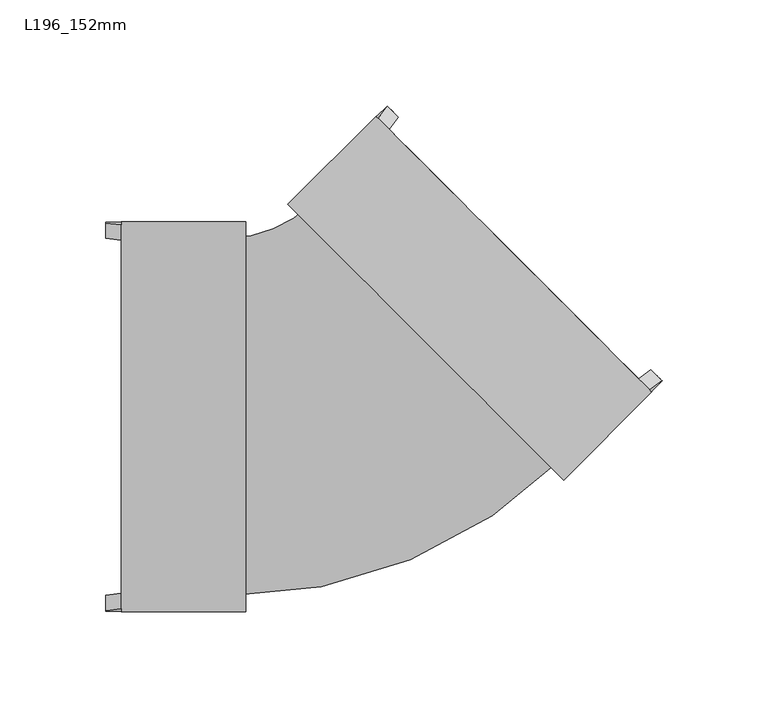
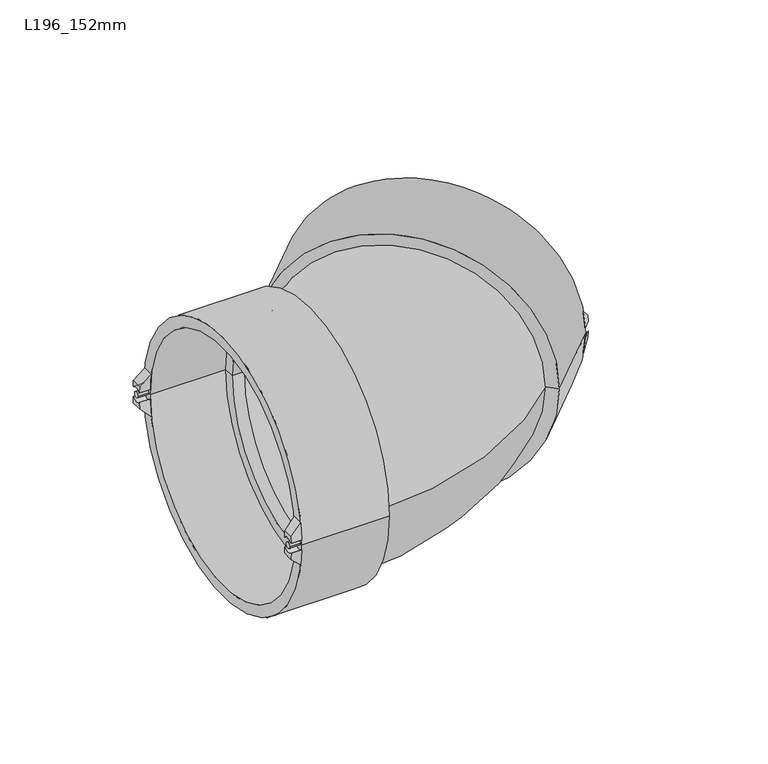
"""IFC4 building model written with IfcOpenShell, lengths in millimetres: pipe fitting geometry, Durapipe_PipeFitting_VulcatheneEnfusion_DoubleSocketSlowBend_L19 : L196_152mm."""

from ifc_helpers import new_model, si_unit, point, frame, frame_2d, origin, place, context, project, spatial, polyline, circle_curve, ellipse_curve, trimmed, segment, composite_curve, outline, extrude, source, transform, mapped, element, save
from ifc_brep_helpers import plane_surface, cylinder_surface, revolved_surface, advanced_brep


def l196_152mm_a0f9f9bf(model_context):
    return source(origin(), model_context, "Body", "SolidModel", [
        advanced_brep(
        [(22.0271158, 141.5730575, 3.3976334), (16.935947, 146.6642263, 3.5393177), (17.1309425, 146.4692308, 7.94), (22.2429024, 141.3572709, 7.94), (12.739641, 140.819616, 15.0), (11.9154888, 141.6437682, 3.5393177), (17.0066577, 136.5525994, 3.3976334), (17.906205, 135.6530521, 15.0)],
        [
            (0, 1, circle_curve(frame((19.4332686, 144.1669048, 0.0), z_axis=(-0.7071067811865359, -0.7071067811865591, 0.0), x_axis=(0.7071067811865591, -0.7071067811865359, 0.0)), 5.0)),
            (1, 2, circle_curve(frame((81.8000867, 81.8000867, 0.0), z_axis=(0.7071067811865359, 0.7071067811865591, 0.0), x_axis=(0.7071067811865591, -0.7071067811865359, 0.0)), 91.8)),
            (2, 3),
            (3, 0, circle_curve(frame((81.8000867, 81.8000867, 0.0), z_axis=(-0.7071067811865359, -0.7071067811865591, 0.0), x_axis=(0.7071067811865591, -0.7071067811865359, 0.0)), 84.6)),
            (4, 5, circle_curve(frame((76.7796285, 76.7796285, 0.0), z_axis=(-0.7071067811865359, -0.7071067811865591, 0.0), x_axis=(0.7071067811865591, -0.7071067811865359, 0.0)), 91.8)),
            (5, 6, circle_curve(frame((14.4128104, 139.1464466, 0.0), z_axis=(0.7071067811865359, 0.7071067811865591, 0.0), x_axis=(0.7071067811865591, -0.7071067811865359, 0.0)), 5.0)),
            (6, 7, circle_curve(frame((76.7796285, 76.7796285, 0.0), z_axis=(0.7071067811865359, 0.7071067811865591, 0.0), x_axis=(0.7071067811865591, -0.7071067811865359, 0.0)), 84.6)),
            (7, 4),
            (6, 0),
            (3, 7, ellipse_curve(frame((87.4463243, 87.4463243, 0.0), z_axis=(0.49858558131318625, 0.49858558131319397, 0.7091014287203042), x_axis=(-0.5014104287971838, -0.5014104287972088, 0.705106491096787)), 119.9818766, 84.6)),
            (4, 2, ellipse_curve(frame((87.4463243, 87.4463243, 0.0), z_axis=(-0.49858558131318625, -0.49858558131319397, -0.7091014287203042), x_axis=(0.5014104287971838, 0.5014104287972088, -0.705106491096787)), 130.1931001, 91.8)),
            (1, 5),
        ],
        [
            plane_surface(frame((17.7600991, 145.8400742, 15.0), z_axis=(0.7071067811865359, 0.7071067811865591, 0.0), x_axis=(0.7071067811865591, -0.7071067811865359, 0.0))),
            plane_surface(frame((12.739641, 140.819616, 15.0), z_axis=(-0.7071067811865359, -0.7071067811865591, 0.0), x_axis=(-0.7071067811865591, 0.7071067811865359, 0.0))),
            revolved_surface(polyline([(87.10739379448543, -32.53507358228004, 0.0), (207.42772218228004, 87.78525480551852, 0.0)]), (76.7796285, 76.7796285, 0.0), (-0.7071067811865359, -0.7071067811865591, 0.0)),
            cylinder_surface(frame((76.7796285, 76.7796285, 0.0), z_axis=(0.7071067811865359, 0.7071067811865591, 0.0), x_axis=(0.7071067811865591, -0.7071067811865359, 0.0)), 91.8),
            revolved_surface(polyline([(22.968802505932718, 140.6313708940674, 0.0), (17.948344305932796, 135.6109126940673, 0.0)]), (14.4128104, 139.1464466, 0.0), (0.7071067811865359, 0.7071067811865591, 0.0)),
            plane_surface(frame((141.692031, 11.867226, 15.0), z_axis=(0.49858558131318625, 0.49858558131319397, 0.7091014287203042), x_axis=(-0.7071067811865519, 0.7071067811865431, 0.0))),
        ],
        [
            (0, [[1, 2, 3, 4]]),
            (1, [[5, 6, 7, 8]]),
            (2, [[-7, 9, -4, 10]]),
            (3, [[-5, 11, -2, 12]]),
            (4, [[-1, -9, -6, -12]]),
            (5, [[-3, -11, -8, -10]]),
        ],
    ),
        advanced_brep(
        [(16.935947, 146.6642263, -3.5393177), (22.0271158, 141.5730575, -3.3976334), (22.2429024, 141.3572709, -7.94), (17.1309425, 146.4692308, -7.94), (11.9154888, 141.6437682, -3.5393177), (12.739641, 140.819616, -15.0), (17.906205, 135.6530521, -15.0), (17.0066577, 136.5525994, -3.3976334)],
        [
            (0, 1, circle_curve(frame((19.4332686, 144.1669048, 0.0), z_axis=(-0.7071067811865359, -0.7071067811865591, 0.0), x_axis=(0.7071067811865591, -0.7071067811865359, 0.0)), 5.0)),
            (1, 2, circle_curve(frame((81.8000867, 81.8000867, 0.0), z_axis=(-0.7071067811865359, -0.7071067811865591, 0.0), x_axis=(0.7071067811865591, -0.7071067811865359, 0.0)), 84.6)),
            (2, 3),
            (3, 0, circle_curve(frame((81.8000867, 81.8000867, 0.0), z_axis=(0.7071067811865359, 0.7071067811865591, 0.0), x_axis=(0.7071067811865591, -0.7071067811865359, 0.0)), 91.8)),
            (4, 5, circle_curve(frame((76.7796285, 76.7796285, 0.0), z_axis=(-0.7071067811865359, -0.7071067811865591, 0.0), x_axis=(0.7071067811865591, -0.7071067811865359, 0.0)), 91.8)),
            (5, 6),
            (6, 7, circle_curve(frame((76.7796285, 76.7796285, 0.0), z_axis=(0.7071067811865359, 0.7071067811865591, 0.0), x_axis=(0.7071067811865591, -0.7071067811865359, 0.0)), 84.6)),
            (7, 4, circle_curve(frame((14.4128104, 139.1464466, 0.0), z_axis=(0.7071067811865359, 0.7071067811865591, 0.0), x_axis=(0.7071067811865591, -0.7071067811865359, 0.0)), 5.0)),
            (6, 2, ellipse_curve(frame((87.4463243, 87.4463243, 0.0), z_axis=(0.49858558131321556, 0.4985855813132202, -0.7091014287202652), x_axis=(-0.5014104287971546, -0.5014104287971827, -0.7051064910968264)), 119.9818766, 84.6)),
            (1, 7),
            (4, 0),
            (3, 5, ellipse_curve(frame((87.4463243, 87.4463243, 0.0), z_axis=(-0.49858558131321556, -0.4985855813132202, 0.7091014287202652), x_axis=(0.5014104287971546, 0.5014104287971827, 0.7051064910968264)), 130.1931001, 91.8)),
        ],
        [
            plane_surface(frame((17.7600991, 145.8400742, 15.0), z_axis=(0.7071067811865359, 0.7071067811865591, 0.0), x_axis=(0.7071067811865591, -0.7071067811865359, 0.0))),
            plane_surface(frame((12.739641, 140.819616, 15.0), z_axis=(-0.7071067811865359, -0.7071067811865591, 0.0), x_axis=(-0.7071067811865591, 0.7071067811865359, 0.0))),
            revolved_surface(polyline([(87.10739379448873, -32.53507358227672, 0.0), (207.42772218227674, 87.78525480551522, 0.0)]), (76.7796285, 76.7796285, 0.0), (-0.7071067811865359, -0.7071067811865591, 0.0)),
            cylinder_surface(frame((76.7796285, 76.7796285, 0.0), z_axis=(0.7071067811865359, 0.7071067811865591, 0.0), x_axis=(0.7071067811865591, -0.7071067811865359, 0.0)), 91.8),
            revolved_surface(polyline([(22.968802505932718, 140.6313708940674, 0.0), (17.948344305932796, 135.6109126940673, 0.0)]), (14.4128104, 139.1464466, 0.0), (0.7071067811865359, 0.7071067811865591, 0.0)),
            plane_surface(frame((146.7124892, 16.8876841, -7.94), z_axis=(0.49858558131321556, 0.4985855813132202, -0.7091014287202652), x_axis=(-0.7071067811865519, 0.7071067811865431, 0.0))),
        ],
        [
            (0, [[1, 2, 3, 4]]),
            (1, [[5, 6, 7, 8]]),
            (2, [[-7, 9, -2, 10]]),
            (3, [[-5, 11, -4, 12]]),
            (4, [[-1, -11, -8, -10]]),
            (5, [[-3, -9, -6, -12]]),
        ],
    ),
        advanced_brep(
        [(146.6642263, 16.935947, 3.5393177), (141.5730575, 22.0271158, 3.3976334), (141.3572709, 22.2429024, 7.94), (146.4692308, 17.1309425, 7.94), (141.6437682, 11.9154888, 3.5393177), (140.819616, 12.739641, 15.0), (135.6530521, 17.906205, 15.0), (136.5525994, 17.0066577, 3.3976334)],
        [
            (0, 1, circle_curve(frame((144.1669048, 19.4332686, 0.0), z_axis=(-0.7071067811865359, -0.7071067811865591, 0.0), x_axis=(0.7071067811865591, -0.7071067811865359, 0.0)), 5.0)),
            (1, 2, circle_curve(frame((81.8000867, 81.8000867, 0.0), z_axis=(-0.7071067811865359, -0.7071067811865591, 0.0), x_axis=(0.7071067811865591, -0.7071067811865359, 0.0)), 84.6)),
            (2, 3),
            (3, 0, circle_curve(frame((81.8000867, 81.8000867, 0.0), z_axis=(0.7071067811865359, 0.7071067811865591, 0.0), x_axis=(0.7071067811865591, -0.7071067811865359, 0.0)), 91.8)),
            (4, 5, circle_curve(frame((76.7796285, 76.7796285, 0.0), z_axis=(-0.7071067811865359, -0.7071067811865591, 0.0), x_axis=(0.7071067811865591, -0.7071067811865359, 0.0)), 91.8)),
            (5, 6),
            (6, 7, circle_curve(frame((76.7796285, 76.7796285, 0.0), z_axis=(0.7071067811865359, 0.7071067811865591, 0.0), x_axis=(0.7071067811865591, -0.7071067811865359, 0.0)), 84.6)),
            (7, 4, circle_curve(frame((139.1464466, 14.4128104, 0.0), z_axis=(0.7071067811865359, 0.7071067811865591, 0.0), x_axis=(0.7071067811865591, -0.7071067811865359, 0.0)), 5.0)),
            (6, 2, ellipse_curve(frame((87.4463243, 87.4463243, 0.0), z_axis=(0.49858558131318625, 0.49858558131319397, 0.7091014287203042), x_axis=(-0.5014104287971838, -0.5014104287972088, 0.705106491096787)), 119.9818766, 84.6)),
            (1, 7),
            (4, 0),
            (3, 5, ellipse_curve(frame((87.4463243, 87.4463243, 0.0), z_axis=(-0.49858558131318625, -0.49858558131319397, -0.7091014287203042), x_axis=(0.5014104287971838, 0.5014104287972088, -0.705106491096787)), 130.1931001, 91.8)),
        ],
        [
            plane_surface(frame((17.7600991, 145.8400742, 15.0), z_axis=(0.7071067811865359, 0.7071067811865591, 0.0), x_axis=(0.7071067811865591, -0.7071067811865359, 0.0))),
            plane_surface(frame((12.739641, 140.819616, 15.0), z_axis=(-0.7071067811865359, -0.7071067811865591, 0.0), x_axis=(-0.7071067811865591, 0.7071067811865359, 0.0))),
            revolved_surface(polyline([(87.10739379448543, -32.53507358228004, 0.0), (207.42772218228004, 87.78525480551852, 0.0)]), (76.7796285, 76.7796285, 0.0), (-0.7071067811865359, -0.7071067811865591, 0.0)),
            cylinder_surface(frame((76.7796285, 76.7796285, 0.0), z_axis=(0.7071067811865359, 0.7071067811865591, 0.0), x_axis=(0.7071067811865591, -0.7071067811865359, 0.0)), 91.8),
            revolved_surface(polyline([(147.7024387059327, 15.897734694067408, 0.0), (142.68198050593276, 10.87727649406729, 0.0)]), (139.1464466, 14.4128104, 0.0), (0.7071067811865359, 0.7071067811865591, 0.0)),
            plane_surface(frame((141.692031, 11.867226, 15.0), z_axis=(0.49858558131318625, 0.49858558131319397, 0.7091014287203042), x_axis=(-0.7071067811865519, 0.7071067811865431, 0.0))),
        ],
        [
            (0, [[1, 2, 3, 4]]),
            (1, [[5, 6, 7, 8]]),
            (2, [[-7, 9, -2, 10]]),
            (3, [[-5, 11, -4, 12]]),
            (4, [[-1, -11, -8, -10]]),
            (5, [[-3, -9, -6, -12]]),
        ],
    ),
        advanced_brep(
        [(141.5730575, 22.0271158, -3.3976334), (146.6642263, 16.935947, -3.5393177), (146.4692308, 17.1309425, -7.94), (141.3572709, 22.2429024, -7.94), (140.819616, 12.739641, -15.0), (141.6437682, 11.9154888, -3.5393177), (136.5525994, 17.0066577, -3.3976334), (135.6530521, 17.906205, -15.0)],
        [
            (0, 1, circle_curve(frame((144.1669048, 19.4332686, 0.0), z_axis=(-0.7071067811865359, -0.7071067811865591, 0.0), x_axis=(0.7071067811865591, -0.7071067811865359, 0.0)), 5.0)),
            (1, 2, circle_curve(frame((81.8000867, 81.8000867, 0.0), z_axis=(0.7071067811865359, 0.7071067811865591, 0.0), x_axis=(0.7071067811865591, -0.7071067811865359, 0.0)), 91.8)),
            (2, 3),
            (3, 0, circle_curve(frame((81.8000867, 81.8000867, 0.0), z_axis=(-0.7071067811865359, -0.7071067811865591, 0.0), x_axis=(0.7071067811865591, -0.7071067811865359, 0.0)), 84.6)),
            (4, 5, circle_curve(frame((76.7796285, 76.7796285, 0.0), z_axis=(-0.7071067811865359, -0.7071067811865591, 0.0), x_axis=(0.7071067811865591, -0.7071067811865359, 0.0)), 91.8)),
            (5, 6, circle_curve(frame((139.1464466, 14.4128104, 0.0), z_axis=(0.7071067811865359, 0.7071067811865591, 0.0), x_axis=(0.7071067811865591, -0.7071067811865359, 0.0)), 5.0)),
            (6, 7, circle_curve(frame((76.7796285, 76.7796285, 0.0), z_axis=(0.7071067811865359, 0.7071067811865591, 0.0), x_axis=(0.7071067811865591, -0.7071067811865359, 0.0)), 84.6)),
            (7, 4),
            (6, 0),
            (3, 7, ellipse_curve(frame((87.4463243, 87.4463243, 0.0), z_axis=(0.49858558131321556, 0.4985855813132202, -0.7091014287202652), x_axis=(-0.5014104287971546, -0.5014104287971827, -0.7051064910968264)), 119.9818766, 84.6)),
            (4, 2, ellipse_curve(frame((87.4463243, 87.4463243, 0.0), z_axis=(-0.49858558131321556, -0.4985855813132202, 0.7091014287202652), x_axis=(0.5014104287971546, 0.5014104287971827, 0.7051064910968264)), 130.1931001, 91.8)),
            (1, 5),
        ],
        [
            plane_surface(frame((17.7600991, 145.8400742, 15.0), z_axis=(0.7071067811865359, 0.7071067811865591, 0.0), x_axis=(0.7071067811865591, -0.7071067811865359, 0.0))),
            plane_surface(frame((12.739641, 140.819616, 15.0), z_axis=(-0.7071067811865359, -0.7071067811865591, 0.0), x_axis=(-0.7071067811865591, 0.7071067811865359, 0.0))),
            revolved_surface(polyline([(87.10739379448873, -32.53507358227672, 0.0), (207.42772218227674, 87.78525480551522, 0.0)]), (76.7796285, 76.7796285, 0.0), (-0.7071067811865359, -0.7071067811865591, 0.0)),
            cylinder_surface(frame((76.7796285, 76.7796285, 0.0), z_axis=(0.7071067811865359, 0.7071067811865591, 0.0), x_axis=(0.7071067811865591, -0.7071067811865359, 0.0)), 91.8),
            revolved_surface(polyline([(147.7024387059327, 15.897734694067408, 0.0), (142.68198050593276, 10.87727649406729, 0.0)]), (139.1464466, 14.4128104, 0.0), (0.7071067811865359, 0.7071067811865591, 0.0)),
            plane_surface(frame((146.7124892, 16.8876841, -7.94), z_axis=(0.49858558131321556, 0.4985855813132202, -0.7091014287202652), x_axis=(-0.7071067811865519, 0.7071067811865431, 0.0))),
        ],
        [
            (0, [[1, 2, 3, 4]]),
            (1, [[5, 6, 7, 8]]),
            (2, [[-7, 9, -4, 10]]),
            (3, [[-5, 11, -2, 12]]),
            (4, [[-1, -9, -6, -12]]),
            (5, [[-3, -11, -8, -10]]),
        ],
    ),
        extrude(outline(composite_curve([segment(trimmed(circle_curve(frame_2d((0.0, -2.0000001)), 2.0), [point((0.0, -4.0000001))], [point((0.0, 0.0))], False, "CARTESIAN"), True, "CONTINUOUS"), segment(trimmed(circle_curve(frame_2d((0.0, -2.0000001)), 2.0), [point((0.0, 0.0))], [point((0.0, -4.0000001))], False, "CARTESIAN"), True, "CONTINUOUS")], self_intersect=False)), frame((15.827024, 137.732233, 0.0), z_axis=(0.7071067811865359, 0.7071067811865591, 0.0), x_axis=(0.0, 0.0, 1.0)), (0.0, 0.0, 1.0), 7.1),
        extrude(outline(composite_curve([segment(trimmed(circle_curve(frame_2d((0.0, 174.3999999)), 2.0), [point((0.0, 172.3999999))], [point((0.0, 176.4))], False, "CARTESIAN"), True, "CONTINUOUS"), segment(trimmed(circle_curve(frame_2d((0.0, 174.3999999)), 2.0), [point((0.0, 176.4))], [point((0.0, 172.3999999))], False, "CARTESIAN"), True, "CONTINUOUS")], self_intersect=False)), frame((15.827024, 137.732233, 0.0), z_axis=(0.7071067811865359, 0.7071067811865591, 0.0), x_axis=(0.0, 0.0, 1.0)), (0.0, 0.0, 1.0), 7.1),
        advanced_brep(
        [(-13.6239735, 95.3411815, 0.0), (95.3411815, -13.6239735, 0.0), (100.5737717, -18.8565636, 0.0), (-18.8565636, 100.5737717, 0.0), (-19.2808277, 89.6843273, 0.0), (89.6843273, -19.2808277, 0.0), (-29.8167188, 100.2202183, 0.0), (100.2202183, -29.8167188, 0.0), (11.76116, 141.798097, 0.0), (141.798097, 11.76116, 0.0), (17.0644608, 136.4947962, 0.0), (136.4947962, 17.0644608, 0.0)],
        [
            (0, 1, circle_curve(frame((40.858604, 40.858604, 0.0), z_axis=(-0.7071067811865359, -0.7071067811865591, 0.0), x_axis=(0.7071067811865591, -0.7071067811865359, 0.0)), 77.05)),
            (1, 2),
            (2, 3, circle_curve(frame((40.858604, 40.858604, 0.0), z_axis=(0.7071067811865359, 0.7071067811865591, 0.0), x_axis=(0.7071067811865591, -0.7071067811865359, 0.0)), 84.45)),
            (3, 0),
            (1, 0, circle_curve(frame((40.858604, 40.858604, 0.0), z_axis=(-0.7071067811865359, -0.7071067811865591, 0.0), x_axis=(0.7071067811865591, -0.7071067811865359, 0.0)), 77.05)),
            (3, 2, circle_curve(frame((40.858604, 40.858604, 0.0), z_axis=(0.7071067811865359, 0.7071067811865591, 0.0), x_axis=(0.7071067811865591, -0.7071067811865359, 0.0)), 84.45)),
            (4, 5, circle_curve(frame((35.2017498, 35.2017498, 0.0), z_axis=(-0.7071067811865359, -0.7071067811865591, 0.0), x_axis=(0.7071067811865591, -0.7071067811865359, 0.0)), 77.05)),
            (5, 1),
            (0, 4),
            (5, 4, circle_curve(frame((35.2017498, 35.2017498, 0.0), z_axis=(-0.7071067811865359, -0.7071067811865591, 0.0), x_axis=(0.7071067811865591, -0.7071067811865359, 0.0)), 77.05)),
            (6, 7, circle_curve(frame((35.2017498, 35.2017498, 0.0), z_axis=(-0.7071067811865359, -0.7071067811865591, 0.0), x_axis=(0.7071067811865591, -0.7071067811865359, 0.0)), 91.95)),
            (7, 5),
            (4, 6),
            (7, 6, circle_curve(frame((35.2017498, 35.2017498, 0.0), z_axis=(-0.7071067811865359, -0.7071067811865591, 0.0), x_axis=(0.7071067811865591, -0.7071067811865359, 0.0)), 91.95)),
            (8, 9, circle_curve(frame((76.7796285, 76.7796285, 0.0), z_axis=(-0.7071067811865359, -0.7071067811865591, 0.0), x_axis=(0.7071067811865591, -0.7071067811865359, 0.0)), 91.95)),
            (9, 7),
            (6, 8),
            (9, 8, circle_curve(frame((76.7796285, 76.7796285, 0.0), z_axis=(-0.7071067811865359, -0.7071067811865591, 0.0), x_axis=(0.7071067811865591, -0.7071067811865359, 0.0)), 91.95)),
            (10, 11, circle_curve(frame((76.7796285, 76.7796285, 0.0), z_axis=(-0.7071067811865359, -0.7071067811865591, 0.0), x_axis=(0.7071067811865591, -0.7071067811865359, 0.0)), 84.45)),
            (11, 9),
            (8, 10),
            (11, 10, circle_curve(frame((76.7796285, 76.7796285, 0.0), z_axis=(-0.7071067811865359, -0.7071067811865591, 0.0), x_axis=(0.7071067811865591, -0.7071067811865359, 0.0)), 84.45)),
            (2, 11),
            (10, 3),
        ],
        [
            plane_surface(frame((40.858604, 40.858604, 0.0), z_axis=(0.7071067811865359, 0.7071067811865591, 0.0), x_axis=(0.7071067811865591, -0.7071067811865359, 0.0))),
            revolved_surface(polyline([(95.34118149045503, -13.623973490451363, 0.0), (89.68432729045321, -19.280827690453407, 0.0)]), (1854.4337898, 1854.4337898, 0.0), (0.7071067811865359, 0.7071067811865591, 0.0)),
            plane_surface(frame((35.2017498, 35.2017498, 0.0), z_axis=(-0.7071067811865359, -0.7071067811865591, 0.0), x_axis=(0.7071067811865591, -0.7071067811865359, 0.0))),
            cylinder_surface(frame((1854.4337898, 1854.4337898, 0.0), z_axis=(0.7071067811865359, 0.7071067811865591, 0.0), x_axis=(0.7071067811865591, -0.7071067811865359, 0.0)), 91.95),
            plane_surface(frame((76.7796285, 76.7796285, 0.0), z_axis=(0.7071067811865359, 0.7071067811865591, 0.0), x_axis=(0.7071067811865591, -0.7071067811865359, 0.0))),
            revolved_surface(polyline([(136.49479617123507, 17.064460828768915, 0.0), (100.57377167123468, -18.856563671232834, 0.0)]), (1854.4337898, 1854.4337898, 0.0), (0.7071067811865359, 0.7071067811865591, 0.0)),
        ],
        [
            (0, [[1, 2, 3, 4]]),
            (0, [[5, -4, 6, -2]]),
            (1, [[7, 8, -1, 9]]),
            (1, [[10, -9, -5, -8]]),
            (2, [[11, 12, -7, 13]]),
            (2, [[14, -13, -10, -12]]),
            (3, [[15, 16, -11, 17]]),
            (3, [[18, -17, -14, -16]]),
            (4, [[19, 20, -15, 21]]),
            (4, [[22, -21, -18, -20]]),
            (5, [[-3, 23, -19, 24]]),
            (5, [[-6, -24, -22, -23]]),
        ],
    ),
        advanced_brep(
        [(-115.682792, 84.531746, -3.3976334), (-115.682792, 91.731746, -3.5393177), (-115.682792, 91.4559807, -7.94), (-115.682792, 84.2265778, -7.94), (-108.582792, 90.5662189, -15.0), (-108.582792, 91.731746, -3.5393177), (-108.582792, 84.531746, -3.3976334), (-108.582792, 83.259594, -15.0)],
        [
            (0, 1, circle_curve(frame((-115.682792, 88.2, 0.0), z_axis=(1.0, 0.0, 0.0), x_axis=(0.0, -1.0, 0.0)), 5.0)),
            (1, 2, circle_curve(frame((-115.682792, 0.0, 0.0), z_axis=(-1.0, 0.0, 0.0), x_axis=(0.0, -1.0, 0.0)), 91.8)),
            (2, 3),
            (3, 0, circle_curve(frame((-115.682792, 0.0, 0.0), z_axis=(1.0, 0.0, 0.0), x_axis=(0.0, -1.0, 0.0)), 84.6)),
            (4, 5, circle_curve(frame((-108.582792, 0.0, 0.0), z_axis=(1.0, 0.0, 0.0), x_axis=(0.0, -1.0, 0.0)), 91.8)),
            (5, 6, circle_curve(frame((-108.582792, 88.2, 0.0), z_axis=(-1.0, 0.0, 0.0), x_axis=(0.0, -1.0, 0.0)), 5.0)),
            (6, 7, circle_curve(frame((-108.582792, 0.0, 0.0), z_axis=(-1.0, 0.0, 0.0), x_axis=(0.0, -1.0, 0.0)), 84.6)),
            (7, 4),
            (6, 0),
            (3, 7, ellipse_curve(frame((-123.6677778, 0.0, 0.0), z_axis=(-0.705106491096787, 0.0, -0.7091014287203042), x_axis=(0.7091014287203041, 0.0, -0.705106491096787)), 119.9818766, 84.6)),
            (4, 2, ellipse_curve(frame((-123.6677778, 0.0, 0.0), z_axis=(0.705106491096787, 0.0, 0.7091014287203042), x_axis=(-0.7091014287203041, 0.0, 0.705106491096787)), 130.1931001, 91.8)),
            (1, 5),
        ],
        [
            plane_surface(frame((-115.682792, 90.5662189, -15.0), z_axis=(-1.0, 0.0, 0.0), x_axis=(0.0, -1.0, 0.0))),
            plane_surface(frame((-108.582792, 90.5662189, -15.0), z_axis=(1.0, 0.0, 0.0), x_axis=(0.0, 1.0, 0.0))),
            revolved_surface(polyline([(-38.588457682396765, -84.6, 0.0), (-208.74709791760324, -84.6, 0.0)]), (-108.582792, 0.0, 0.0), (1.0, 0.0, 0.0)),
            cylinder_surface(frame((-108.582792, 0.0, 0.0), z_axis=(-1.0, 0.0, 0.0), x_axis=(0.0, -1.0, 0.0)), 91.8),
            revolved_surface(polyline([(-115.682792, 83.2, 0.0), (-108.582792, 83.2, 0.0)]), (-108.582792, 88.2, 0.0), (-1.0, 0.0, 0.0)),
            plane_surface(frame((-108.582792, -91.8, -15.0), z_axis=(-0.705106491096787, 0.0, -0.7091014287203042), x_axis=(0.0, 1.0, 0.0))),
        ],
        [
            (0, [[1, 2, 3, 4]]),
            (1, [[5, 6, 7, 8]]),
            (2, [[-7, 9, -4, 10]]),
            (3, [[-5, 11, -2, 12]]),
            (4, [[-1, -9, -6, -12]]),
            (5, [[-3, -11, -8, -10]]),
        ],
    ),
        advanced_brep(
        [(-115.682792, 91.731746, 3.5393177), (-115.682792, 84.531746, 3.3976334), (-115.682792, 84.2265778, 7.94), (-115.682792, 91.4559807, 7.94), (-108.582792, 91.731746, 3.5393177), (-108.582792, 90.5662189, 15.0), (-108.582792, 83.259594, 15.0), (-108.582792, 84.531746, 3.3976334)],
        [
            (0, 1, circle_curve(frame((-115.682792, 88.2, 0.0), z_axis=(1.0, 0.0, 0.0), x_axis=(0.0, -1.0, 0.0)), 5.0)),
            (1, 2, circle_curve(frame((-115.682792, 0.0, 0.0), z_axis=(1.0, 0.0, 0.0), x_axis=(0.0, -1.0, 0.0)), 84.6)),
            (2, 3),
            (3, 0, circle_curve(frame((-115.682792, 0.0, 0.0), z_axis=(-1.0, 0.0, 0.0), x_axis=(0.0, -1.0, 0.0)), 91.8)),
            (4, 5, circle_curve(frame((-108.582792, 0.0, 0.0), z_axis=(1.0, 0.0, 0.0), x_axis=(0.0, -1.0, 0.0)), 91.8)),
            (5, 6),
            (6, 7, circle_curve(frame((-108.582792, 0.0, 0.0), z_axis=(-1.0, 0.0, 0.0), x_axis=(0.0, -1.0, 0.0)), 84.6)),
            (7, 4, circle_curve(frame((-108.582792, 88.2, 0.0), z_axis=(-1.0, 0.0, 0.0), x_axis=(0.0, -1.0, 0.0)), 5.0)),
            (6, 2, ellipse_curve(frame((-123.6677778, 0.0, 0.0), z_axis=(-0.7051064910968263, 0.0, 0.7091014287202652), x_axis=(0.7091014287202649, 0.0, 0.7051064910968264)), 119.9818766, 84.6)),
            (1, 7),
            (4, 0),
            (3, 5, ellipse_curve(frame((-123.6677778, 0.0, 0.0), z_axis=(0.7051064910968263, 0.0, -0.7091014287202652), x_axis=(-0.7091014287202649, 0.0, -0.7051064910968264)), 130.1931001, 91.8)),
        ],
        [
            plane_surface(frame((-115.682792, 90.5662189, -15.0), z_axis=(-1.0, 0.0, 0.0), x_axis=(0.0, -1.0, 0.0))),
            plane_surface(frame((-108.582792, 90.5662189, -15.0), z_axis=(1.0, 0.0, 0.0), x_axis=(0.0, 1.0, 0.0))),
            revolved_surface(polyline([(-38.58845768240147, -84.6, 0.0), (-208.74709791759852, -84.6, 0.0)]), (-108.582792, 0.0, 0.0), (1.0, 0.0, 0.0)),
            cylinder_surface(frame((-108.582792, 0.0, 0.0), z_axis=(-1.0, 0.0, 0.0), x_axis=(0.0, -1.0, 0.0)), 91.8),
            revolved_surface(polyline([(-115.682792, 83.2, 0.0), (-108.582792, 83.2, 0.0)]), (-108.582792, 88.2, 0.0), (-1.0, 0.0, 0.0)),
            plane_surface(frame((-115.682792, -91.8, 7.94), z_axis=(-0.7051064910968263, 0.0, 0.7091014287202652), x_axis=(0.0, 1.0, 0.0))),
        ],
        [
            (0, [[1, 2, 3, 4]]),
            (1, [[5, 6, 7, 8]]),
            (2, [[-7, 9, -2, 10]]),
            (3, [[-5, 11, -4, 12]]),
            (4, [[-1, -11, -8, -10]]),
            (5, [[-3, -9, -6, -12]]),
        ],
    ),
        advanced_brep(
        [(-115.682792, -91.731746, -3.5393177), (-115.682792, -84.531746, -3.3976334), (-115.682792, -84.2265778, -7.94), (-115.682792, -91.4559807, -7.94), (-108.582792, -91.731746, -3.5393177), (-108.582792, -90.5662189, -15.0), (-108.582792, -83.259594, -15.0), (-108.582792, -84.531746, -3.3976334)],
        [
            (0, 1, circle_curve(frame((-115.682792, -88.2, 0.0), z_axis=(1.0, 0.0, 0.0), x_axis=(0.0, -1.0, 0.0)), 5.0)),
            (1, 2, circle_curve(frame((-115.682792, 0.0, 0.0), z_axis=(1.0, 0.0, 0.0), x_axis=(0.0, -1.0, 0.0)), 84.6)),
            (2, 3),
            (3, 0, circle_curve(frame((-115.682792, 0.0, 0.0), z_axis=(-1.0, 0.0, 0.0), x_axis=(0.0, -1.0, 0.0)), 91.8)),
            (4, 5, circle_curve(frame((-108.582792, 0.0, 0.0), z_axis=(1.0, 0.0, 0.0), x_axis=(0.0, -1.0, 0.0)), 91.8)),
            (5, 6),
            (6, 7, circle_curve(frame((-108.582792, 0.0, 0.0), z_axis=(-1.0, 0.0, 0.0), x_axis=(0.0, -1.0, 0.0)), 84.6)),
            (7, 4, circle_curve(frame((-108.582792, -88.2, 0.0), z_axis=(-1.0, 0.0, 0.0), x_axis=(0.0, -1.0, 0.0)), 5.0)),
            (6, 2, ellipse_curve(frame((-123.6677778, 0.0, 0.0), z_axis=(-0.705106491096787, 0.0, -0.7091014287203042), x_axis=(0.7091014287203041, 0.0, -0.705106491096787)), 119.9818766, 84.6)),
            (1, 7),
            (4, 0),
            (3, 5, ellipse_curve(frame((-123.6677778, 0.0, 0.0), z_axis=(0.705106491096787, 0.0, 0.7091014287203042), x_axis=(-0.7091014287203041, 0.0, 0.705106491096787)), 130.1931001, 91.8)),
        ],
        [
            plane_surface(frame((-115.682792, 90.5662189, -15.0), z_axis=(-1.0, 0.0, 0.0), x_axis=(0.0, -1.0, 0.0))),
            plane_surface(frame((-108.582792, 90.5662189, -15.0), z_axis=(1.0, 0.0, 0.0), x_axis=(0.0, 1.0, 0.0))),
            revolved_surface(polyline([(-38.588457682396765, -84.6, 0.0), (-208.74709791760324, -84.6, 0.0)]), (-108.582792, 0.0, 0.0), (1.0, 0.0, 0.0)),
            cylinder_surface(frame((-108.582792, 0.0, 0.0), z_axis=(-1.0, 0.0, 0.0), x_axis=(0.0, -1.0, 0.0)), 91.8),
            revolved_surface(polyline([(-115.682792, -93.2, 0.0), (-108.582792, -93.2, 0.0)]), (-108.582792, -88.2, 0.0), (-1.0, 0.0, 0.0)),
            plane_surface(frame((-108.582792, -91.8, -15.0), z_axis=(-0.705106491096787, 0.0, -0.7091014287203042), x_axis=(0.0, 1.0, 0.0))),
        ],
        [
            (0, [[1, 2, 3, 4]]),
            (1, [[5, 6, 7, 8]]),
            (2, [[-7, 9, -2, 10]]),
            (3, [[-5, 11, -4, 12]]),
            (4, [[-1, -11, -8, -10]]),
            (5, [[-3, -9, -6, -12]]),
        ],
    ),
        advanced_brep(
        [(-115.682792, -84.531746, 3.3976334), (-115.682792, -91.731746, 3.5393177), (-115.682792, -91.4559807, 7.94), (-115.682792, -84.2265778, 7.94), (-108.582792, -90.5662189, 15.0), (-108.582792, -91.731746, 3.5393177), (-108.582792, -84.531746, 3.3976334), (-108.582792, -83.259594, 15.0)],
        [
            (0, 1, circle_curve(frame((-115.682792, -88.2, 0.0), z_axis=(1.0, 0.0, 0.0), x_axis=(0.0, -1.0, 0.0)), 5.0)),
            (1, 2, circle_curve(frame((-115.682792, 0.0, 0.0), z_axis=(-1.0, 0.0, 0.0), x_axis=(0.0, -1.0, 0.0)), 91.8)),
            (2, 3),
            (3, 0, circle_curve(frame((-115.682792, 0.0, 0.0), z_axis=(1.0, 0.0, 0.0), x_axis=(0.0, -1.0, 0.0)), 84.6)),
            (4, 5, circle_curve(frame((-108.582792, 0.0, 0.0), z_axis=(1.0, 0.0, 0.0), x_axis=(0.0, -1.0, 0.0)), 91.8)),
            (5, 6, circle_curve(frame((-108.582792, -88.2, 0.0), z_axis=(-1.0, 0.0, 0.0), x_axis=(0.0, -1.0, 0.0)), 5.0)),
            (6, 7, circle_curve(frame((-108.582792, 0.0, 0.0), z_axis=(-1.0, 0.0, 0.0), x_axis=(0.0, -1.0, 0.0)), 84.6)),
            (7, 4),
            (6, 0),
            (3, 7, ellipse_curve(frame((-123.6677778, 0.0, 0.0), z_axis=(-0.7051064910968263, 0.0, 0.7091014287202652), x_axis=(0.7091014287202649, 0.0, 0.7051064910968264)), 119.9818766, 84.6)),
            (4, 2, ellipse_curve(frame((-123.6677778, 0.0, 0.0), z_axis=(0.7051064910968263, 0.0, -0.7091014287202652), x_axis=(-0.7091014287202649, 0.0, -0.7051064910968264)), 130.1931001, 91.8)),
            (1, 5),
        ],
        [
            plane_surface(frame((-115.682792, 90.5662189, -15.0), z_axis=(-1.0, 0.0, 0.0), x_axis=(0.0, -1.0, 0.0))),
            plane_surface(frame((-108.582792, 90.5662189, -15.0), z_axis=(1.0, 0.0, 0.0), x_axis=(0.0, 1.0, 0.0))),
            revolved_surface(polyline([(-38.58845768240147, -84.6, 0.0), (-208.74709791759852, -84.6, 0.0)]), (-108.582792, 0.0, 0.0), (1.0, 0.0, 0.0)),
            cylinder_surface(frame((-108.582792, 0.0, 0.0), z_axis=(-1.0, 0.0, 0.0), x_axis=(0.0, -1.0, 0.0)), 91.8),
            revolved_surface(polyline([(-115.682792, -93.2, 0.0), (-108.582792, -93.2, 0.0)]), (-108.582792, -88.2, 0.0), (-1.0, 0.0, 0.0)),
            plane_surface(frame((-115.682792, -91.8, 7.94), z_axis=(-0.7051064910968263, 0.0, 0.7091014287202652), x_axis=(0.0, 1.0, 0.0))),
        ],
        [
            (0, [[1, 2, 3, 4]]),
            (1, [[5, 6, 7, 8]]),
            (2, [[-7, 9, -4, 10]]),
            (3, [[-5, 11, -2, 12]]),
            (4, [[-1, -9, -6, -12]]),
            (5, [[-3, -11, -8, -10]]),
        ],
    ),
        extrude(outline(composite_curve([segment(trimmed(circle_curve(frame_2d((88.2, 0.0)), 2.0), [point((90.2, 0.0))], [point((86.2, 0.0))], False, "CARTESIAN"), True, "CONTINUOUS"), segment(trimmed(circle_curve(frame_2d((88.2, 0.0)), 2.0), [point((86.2, 0.0))], [point((90.2, 0.0))], False, "CARTESIAN"), True, "CONTINUOUS")], self_intersect=False)), frame((-115.682792, 0.0, 0.0), z_axis=(1.0, 0.0, 0.0), x_axis=(0.0, 1.0, 0.0)), (0.0, 0.0, 1.0), 7.1),
        extrude(outline(composite_curve([segment(trimmed(circle_curve(frame_2d((-88.2, 0.0)), 2.0), [point((-86.2, 0.0))], [point((-90.2, 0.0))], False, "CARTESIAN"), True, "CONTINUOUS"), segment(trimmed(circle_curve(frame_2d((-88.2, 0.0)), 2.0), [point((-90.2, 0.0))], [point((-86.2, 0.0))], False, "CARTESIAN"), True, "CONTINUOUS")], self_intersect=False)), frame((-115.682792, 0.0, 0.0), z_axis=(1.0, 0.0, 0.0), x_axis=(0.0, 1.0, 0.0)), (0.0, 0.0, 1.0), 7.1),
        advanced_brep(
        [(-57.782792, 77.05, 0.0), (-57.782792, -77.05, 0.0), (-57.782792, -84.45, 0.0), (-57.782792, 84.45, 0.0), (-49.782792, 77.05, 0.0), (-49.782792, -77.05, 0.0), (-49.782792, 91.95, 0.0), (-49.782792, -91.95, 0.0), (-108.582792, 91.95, 0.0), (-108.582792, -91.95, 0.0), (-108.582792, 84.45, 0.0), (-108.582792, -84.45, 0.0)],
        [
            (0, 1, circle_curve(frame((-57.782792, 0.0, 0.0), z_axis=(1.0, 0.0, 0.0), x_axis=(0.0, -1.0, 0.0)), 77.05)),
            (1, 2),
            (2, 3, circle_curve(frame((-57.782792, 0.0, 0.0), z_axis=(-1.0, 0.0, 0.0), x_axis=(0.0, -1.0, 0.0)), 84.45)),
            (3, 0),
            (1, 0, circle_curve(frame((-57.782792, 0.0, 0.0), z_axis=(1.0, 0.0, 0.0), x_axis=(0.0, -1.0, 0.0)), 77.05)),
            (3, 2, circle_curve(frame((-57.782792, 0.0, 0.0), z_axis=(-1.0, 0.0, 0.0), x_axis=(0.0, -1.0, 0.0)), 84.45)),
            (4, 5, circle_curve(frame((-49.782792, 0.0, 0.0), z_axis=(1.0, 0.0, 0.0), x_axis=(0.0, -1.0, 0.0)), 77.05)),
            (5, 1),
            (0, 4),
            (5, 4, circle_curve(frame((-49.782792, 0.0, 0.0), z_axis=(1.0, 0.0, 0.0), x_axis=(0.0, -1.0, 0.0)), 77.05)),
            (6, 7, circle_curve(frame((-49.782792, 0.0, 0.0), z_axis=(1.0, 0.0, 0.0), x_axis=(0.0, -1.0, 0.0)), 91.95)),
            (7, 5),
            (4, 6),
            (7, 6, circle_curve(frame((-49.782792, 0.0, 0.0), z_axis=(1.0, 0.0, 0.0), x_axis=(0.0, -1.0, 0.0)), 91.95)),
            (8, 9, circle_curve(frame((-108.582792, 0.0, 0.0), z_axis=(1.0, 0.0, 0.0), x_axis=(0.0, -1.0, 0.0)), 91.95)),
            (9, 7),
            (6, 8),
            (9, 8, circle_curve(frame((-108.582792, 0.0, 0.0), z_axis=(1.0, 0.0, 0.0), x_axis=(0.0, -1.0, 0.0)), 91.95)),
            (10, 11, circle_curve(frame((-108.582792, 0.0, 0.0), z_axis=(1.0, 0.0, 0.0), x_axis=(0.0, -1.0, 0.0)), 84.45)),
            (11, 9),
            (8, 10),
            (11, 10, circle_curve(frame((-108.582792, 0.0, 0.0), z_axis=(1.0, 0.0, 0.0), x_axis=(0.0, -1.0, 0.0)), 84.45)),
            (2, 11),
            (10, 3),
        ],
        [
            plane_surface(frame((-57.782792, 0.0, 0.0), z_axis=(-1.0, 0.0, 0.0), x_axis=(0.0, -1.0, 0.0))),
            revolved_surface(polyline([(-57.78279199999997, -77.05, 0.0), (-49.78279199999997, -77.05, 0.0)]), (-2622.565416, 0.0, 0.0), (-1.0, 0.0, 0.0)),
            plane_surface(frame((-49.782792, 0.0, 0.0), z_axis=(1.0, 0.0, 0.0), x_axis=(0.0, -1.0, 0.0))),
            cylinder_surface(frame((-2622.565416, 0.0, 0.0), z_axis=(-1.0, 0.0, 0.0), x_axis=(0.0, -1.0, 0.0)), 91.95),
            plane_surface(frame((-108.582792, 0.0, 0.0), z_axis=(-1.0, 0.0, 0.0), x_axis=(0.0, -1.0, 0.0))),
            revolved_surface(polyline([(-108.58279200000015, -84.45, 0.0), (-57.78279199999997, -84.45, 0.0)]), (-2622.565416, 0.0, 0.0), (-1.0, 0.0, 0.0)),
        ],
        [
            (0, [[1, 2, 3, 4]]),
            (0, [[5, -4, 6, -2]]),
            (1, [[7, 8, -1, 9]]),
            (1, [[10, -9, -5, -8]]),
            (2, [[11, 12, -7, 13]]),
            (2, [[14, -13, -10, -12]]),
            (3, [[15, 16, -11, 17]]),
            (3, [[18, -17, -14, -16]]),
            (4, [[19, 20, -15, 21]]),
            (4, [[22, -21, -18, -20]]),
            (5, [[-3, 23, -19, 24]]),
            (5, [[-6, -24, -22, -23]]),
        ],
    ),
        advanced_brep(
        [(-57.782792, -84.45, 0.0), (-57.782792, 84.45, 0.0), (-57.782792, -77.05, 0.0), (-57.782792, 77.05, 0.0), (100.5737717, -18.8565636, 0.0), (-18.8565636, 100.5737717, 0.0), (95.3411815, -13.6239735, 0.0), (-13.6239735, 95.3411815, 0.0)],
        [
            (0, 1, circle_curve(frame((-57.782792, 0.0, 0.0), z_axis=(-1.0, 0.0, 0.0), x_axis=(0.0, 1.0, 0.0)), 84.45)),
            (1, 0, circle_curve(frame((-57.782792, 0.0, 0.0), z_axis=(-1.0, 0.0, 0.0), x_axis=(0.0, 1.0, 0.0)), 84.45)),
            (2, 3, circle_curve(frame((-57.782792, 0.0, 0.0), z_axis=(1.0, 0.0, 0.0), x_axis=(0.0, 1.0, 0.0)), 77.05)),
            (3, 2, circle_curve(frame((-57.782792, 0.0, 0.0), z_axis=(1.0, 0.0, 0.0), x_axis=(0.0, 1.0, 0.0)), 77.05)),
            (4, 5, circle_curve(frame((40.858604, 40.858604, 0.0), z_axis=(0.7071067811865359, 0.7071067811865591, 0.0), x_axis=(-0.7071067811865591, 0.7071067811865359, 0.0)), 84.45)),
            (5, 4, circle_curve(frame((40.858604, 40.858604, 0.0), z_axis=(0.7071067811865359, 0.7071067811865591, 0.0), x_axis=(-0.7071067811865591, 0.7071067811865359, 0.0)), 84.45)),
            (6, 7, circle_curve(frame((40.858604, 40.858604, 0.0), z_axis=(-0.7071067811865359, -0.7071067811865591, 0.0), x_axis=(-0.7071067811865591, 0.7071067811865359, 0.0)), 77.05)),
            (7, 6, circle_curve(frame((40.858604, 40.858604, 0.0), z_axis=(-0.7071067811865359, -0.7071067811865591, 0.0), x_axis=(-0.7071067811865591, 0.7071067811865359, 0.0)), 77.05)),
            (7, 3, circle_curve(frame((-57.782792, 139.5, 0.0), z_axis=(0.0, 0.0, -1.0), x_axis=(0.0, -1.0, 0.0)), 62.45)),
            (2, 6, circle_curve(frame((-57.782792, 139.5, 0.0), z_axis=(0.0, 0.0, 1.0), x_axis=(0.0, -1.0, 0.0)), 216.55)),
            (5, 1, circle_curve(frame((-57.782792, 139.5, 0.0), z_axis=(0.0, 0.0, -1.0), x_axis=(0.0, -1.0, 0.0)), 55.05)),
            (0, 4, circle_curve(frame((-57.782792, 139.5, 0.0), z_axis=(0.0, 0.0, 1.0), x_axis=(0.0, -1.0, 0.0)), 223.95)),
        ],
        [
            plane_surface(frame((-57.782792, 0.0, 0.0), z_axis=(-1.0, 0.0, 0.0), x_axis=(0.0, 0.0, 1.0))),
            plane_surface(frame((40.858604, 40.858604, 0.0), z_axis=(0.7071067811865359, 0.7071067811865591, 0.0), x_axis=(0.0, 0.0, 1.0))),
            revolved_surface(trimmed(ellipse_curve(frame((-57.782792, 0.0, 0.0), z_axis=(1.0, 0.0, 0.0), x_axis=(0.0, 1.0, 0.0)), 77.05, 77.05), [point((-57.782792, -77.05, 0.0))], [point((-57.782792, 77.05, 0.0))], True, "CARTESIAN"), (-57.782792, 139.5, 0.0), (0.0, 0.0, 1.0)),
            revolved_surface(trimmed(ellipse_curve(frame((-57.782792, 0.0, 0.0), z_axis=(1.0, 0.0, 0.0), x_axis=(0.0, 1.0, 0.0)), 77.05, 77.05), [point((-57.782792, 77.05, 0.0))], [point((-57.782792, -77.05, 0.0))], True, "CARTESIAN"), (-57.782792, 139.5, 0.0), (0.0, 0.0, 1.0)),
            revolved_surface(trimmed(ellipse_curve(frame((-57.782792, 0.0, 0.0), z_axis=(-1.0, 0.0, 0.0), x_axis=(0.0, 1.0, 0.0)), 84.45, 84.45), [point((-57.782792, -84.45, 0.0))], [point((-57.782792, 84.45, 0.0))], True, "CARTESIAN"), (-57.782792, 139.5, 0.0), (0.0, 0.0, 1.0)),
            revolved_surface(trimmed(ellipse_curve(frame((-57.782792, 0.0, 0.0), z_axis=(-1.0, 0.0, 0.0), x_axis=(0.0, 1.0, 0.0)), 84.45, 84.45), [point((-57.782792, 84.45, 0.0))], [point((-57.782792, -84.45, 0.0))], True, "CARTESIAN"), (-57.782792, 139.5, 0.0), (0.0, 0.0, 1.0)),
        ],
        [
            (0, [[1, 2], [3, 4]]),
            (1, [[5, 6], [7, 8]]),
            (2, [[9, -3, 10, -8]]),
            (3, [[-10, -4, -9, -7]]),
            (4, [[11, -1, 12, -6]]),
            (5, [[-12, -2, -11, -5]]),
        ],
    ),
    ])


if __name__ == "__main__":
    model = new_model("IFC4")
    model_context = context("Model", 3, world=origin())
    ifc_project = project(units=[si_unit("LENGTHUNIT", "METRE", prefix="MILLI")], contexts=[model_context])
    site = spatial("IfcSite", under=ifc_project)
    building = spatial("IfcBuilding", under=site)
    placement = place(None, origin())
    l196_152mm_shape = l196_152mm_a0f9f9bf(model_context)
    element("IfcPipeFitting", 1, ObjectType="Durapipe_PipeFitting_VulcatheneEnfusion_DoubleSocketSlowBend_L19 : L196_152mm", at=placement, inside=building, context=model_context, shape_type="MappedRepresentation", body=[
        mapped(l196_152mm_shape, transform((0.0, 0.0, 0.0), x_axis=(1.0, 0.0, 0.0), y_axis=(0.0, 1.0, 0.0), z_axis=(0.0, 0.0, 1.0))),
    ])
    save(model, "model.ifc")
